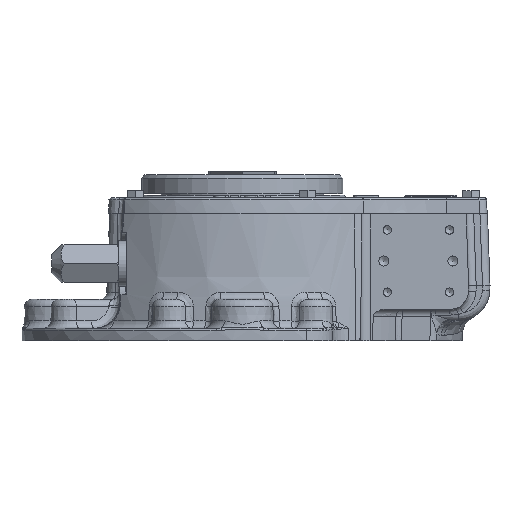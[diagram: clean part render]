
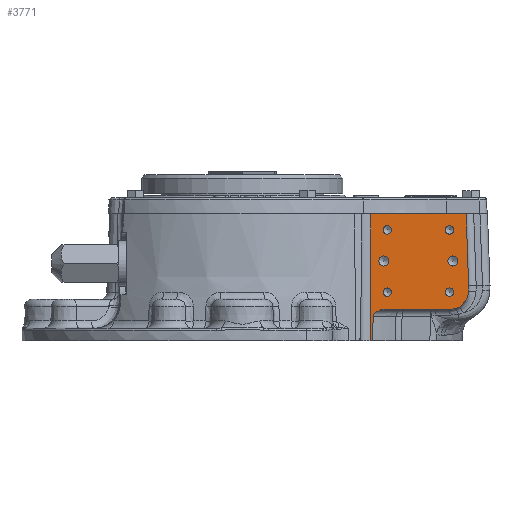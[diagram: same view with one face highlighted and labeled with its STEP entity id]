
A CAD part, front view. The second image highlights one B-rep face of the part: STEP entity #3771.
In plain terms, the highlighted planar face has unit normal (0, -1, 0).
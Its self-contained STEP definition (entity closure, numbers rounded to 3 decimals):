
#3771 = ADVANCED_FACE( '', ( #8143, #8144, #8145, #8146, #8147, #8148, #8149 ), #8150, .F. );
#8143 = FACE_BOUND( '', #31292, .T. );
#8144 = FACE_BOUND( '', #31293, .T. );
#8145 = FACE_BOUND( '', #31294, .T. );
#8146 = FACE_BOUND( '', #31295, .T. );
#8147 = FACE_BOUND( '', #31296, .T. );
#8148 = FACE_BOUND( '', #31297, .T. );
#8149 = FACE_OUTER_BOUND( '', #31298, .T. );
#8150 = PLANE( '', #31299 );
#31292 = EDGE_LOOP( '', ( #47688 ) );
#31293 = EDGE_LOOP( '', ( #47689 ) );
#31294 = EDGE_LOOP( '', ( #47690 ) );
#31295 = EDGE_LOOP( '', ( #47691 ) );
#31296 = EDGE_LOOP( '', ( #47692 ) );
#31297 = EDGE_LOOP( '', ( #47693 ) );
#31298 = EDGE_LOOP( '', ( #47694, #47695, #47696, #47697, #47698, #47699, #47700, #47701, #47702 ) );
#31299 = AXIS2_PLACEMENT_3D( '', #47703, #47704, #47705 );
#47688 = ORIENTED_EDGE( '', *, *, #52268, .T. );
#47689 = ORIENTED_EDGE( '', *, *, #50677, .T. );
#47690 = ORIENTED_EDGE( '', *, *, #53648, .T. );
#47691 = ORIENTED_EDGE( '', *, *, #52016, .T. );
#47692 = ORIENTED_EDGE( '', *, *, #54833, .T. );
#47693 = ORIENTED_EDGE( '', *, *, #54834, .T. );
#47694 = ORIENTED_EDGE( '', *, *, #51272, .T. );
#47695 = ORIENTED_EDGE( '', *, *, #54812, .T. );
#47696 = ORIENTED_EDGE( '', *, *, #51734, .F. );
#47697 = ORIENTED_EDGE( '', *, *, #51850, .T. );
#47698 = ORIENTED_EDGE( '', *, *, #51067, .F. );
#47699 = ORIENTED_EDGE( '', *, *, #51196, .F. );
#47700 = ORIENTED_EDGE( '', *, *, #54680, .F. );
#47701 = ORIENTED_EDGE( '', *, *, #53073, .T. );
#47702 = ORIENTED_EDGE( '', *, *, #54216, .F. );
#47703 = CARTESIAN_POINT( '', ( 178.01, -109.375, -418.811 ) );
#47704 = DIRECTION( '', ( 0., 1., 0. ) );
#47705 = DIRECTION( '', ( -1., 0., 0. ) );
#50677 = EDGE_CURVE( '', #55550, #55550, #55551, .T. );
#51067 = EDGE_CURVE( '', #56237, #56240, #56241, .F. );
#51196 = EDGE_CURVE( '', #56465, #56237, #56467, .T. );
#51272 = EDGE_CURVE( '', #56594, #56592, #56595, .T. );
#51734 = EDGE_CURVE( '', #57364, #57367, #57368, .T. );
#51850 = EDGE_CURVE( '', #57364, #56240, #57555, .T. );
#52016 = EDGE_CURVE( '', #57829, #57829, #57830, .T. );
#52268 = EDGE_CURVE( '', #58215, #58215, #58216, .T. );
#53073 = EDGE_CURVE( '', #59425, #59423, #59426, .T. );
#53648 = EDGE_CURVE( '', #60216, #60216, #60217, .T. );
#54216 = EDGE_CURVE( '', #56594, #59423, #60933, .T. );
#54680 = EDGE_CURVE( '', #59425, #56465, #61482, .T. );
#54812 = EDGE_CURVE( '', #56592, #57367, #61634, .T. );
#54833 = EDGE_CURVE( '', #61655, #61655, #61656, .T. );
#54834 = EDGE_CURVE( '', #61657, #61657, #61658, .T. );
#55550 = VERTEX_POINT( '', #62767 );
#55551 = CIRCLE( '', #62768, 4. );
#56237 = VERTEX_POINT( '', #65307 );
#56240 = VERTEX_POINT( '', #65311 );
#56241 = CIRCLE( '', #65312, 15. );
#56465 = VERTEX_POINT( '', #66481 );
#56467 = LINE( '', #66484, #66485 );
#56592 = VERTEX_POINT( '', #66789 );
#56594 = VERTEX_POINT( '', #66791 );
#56595 = LINE( '', #66792, #66793 );
#57364 = VERTEX_POINT( '', #69405 );
#57367 = VERTEX_POINT( '', #69408 );
#57368 = B_SPLINE_CURVE_WITH_KNOTS( '', 3, ( #69409, #69410, #69411, #69412, #69413, #69414, #69415, #69416, #69417, #69418, #69419, #69420, #69421, #69422, #69423, #69424, #69425, #69426, #69427, #69428, #69429, #69430 ), .UNSPECIFIED., .F., .F., ( 4, 2, 2, 2, 2, 2, 2, 2, 2, 2, 4 ), ( 0.035, 0.037, 0.038, 0.04, 0.04, 0.041, 0.042, 0.044, 0.045, 0.045, 0.047 ), .UNSPECIFIED. );
#57555 = LINE( '', #70144, #70145 );
#57829 = VERTEX_POINT( '', #71170 );
#57830 = CIRCLE( '', #71171, 3.324 );
#58215 = VERTEX_POINT( '', #72590 );
#58216 = CIRCLE( '', #72591, 4. );
#59423 = VERTEX_POINT( '', #77732 );
#59425 = VERTEX_POINT( '', #77734 );
#59426 = LINE( '', #77735, #77736 );
#60216 = VERTEX_POINT( '', #80598 );
#60217 = CIRCLE( '', #80599, 3.324 );
#60933 = LINE( '', #83037, #83038 );
#61482 = LINE( '', #85216, #85217 );
#61634 = B_SPLINE_CURVE_WITH_KNOTS( '', 3, ( #85728, #85729, #85730, #85731 ), .UNSPECIFIED., .F., .F., ( 4, 4 ), ( 0.048, 0.067 ), .UNSPECIFIED. );
#61655 = VERTEX_POINT( '', #85803 );
#61656 = CIRCLE( '', #85804, 3.324 );
#61657 = VERTEX_POINT( '', #85805 );
#61658 = CIRCLE( '', #85806, 3.324 );
#62767 = CARTESIAN_POINT( '', ( 116.5, -109.375, 67.5 ) );
#62768 = AXIS2_PLACEMENT_3D( '', #87140, #87141, #87142 );
#65307 = CARTESIAN_POINT( '', ( 179.842, -109.375, 43.477 ) );
#65311 = CARTESIAN_POINT( '', ( 164.851, -109.375, 29. ) );
#65312 = AXIS2_PLACEMENT_3D( '', #87554, #87555, #87556 );
#66481 = CARTESIAN_POINT( '', ( 180., -109.375, 48. ) );
#66484 = CARTESIAN_POINT( '', ( 180., -109.375, 48. ) );
#66485 = VECTOR( '', #87682, 1000. );
#66789 = CARTESIAN_POINT( '', ( 103.219, -109.375, 4. ) );
#66791 = CARTESIAN_POINT( '', ( 102., -109.375, 4. ) );
#66792 = CARTESIAN_POINT( '', ( -65., -109.375, 4. ) );
#66793 = VECTOR( '', #87775, 1000. );
#69405 = CARTESIAN_POINT( '', ( 112.712, -109.375, 29. ) );
#69408 = CARTESIAN_POINT( '', ( 104.194, -109.375, 23.209 ) );
#69409 = CARTESIAN_POINT( '', ( 112.712, -109.375, 29. ) );
#69410 = CARTESIAN_POINT( '', ( 112.244, -109.375, 29. ) );
#69411 = CARTESIAN_POINT( '', ( 111.777, -109.375, 28.972 ) );
#69412 = CARTESIAN_POINT( '', ( 110.841, -109.375, 28.859 ) );
#69413 = CARTESIAN_POINT( '', ( 110.379, -109.375, 28.774 ) );
#69414 = CARTESIAN_POINT( '', ( 109.475, -109.375, 28.549 ) );
#69415 = CARTESIAN_POINT( '', ( 109.032, -109.375, 28.409 ) );
#69416 = CARTESIAN_POINT( '', ( 108.382, -109.375, 28.153 ) );
#69417 = CARTESIAN_POINT( '', ( 108.168, -109.375, 28.061 ) );
#69418 = CARTESIAN_POINT( '', ( 107.745, -109.375, 27.858 ) );
#69419 = CARTESIAN_POINT( '', ( 107.535, -109.375, 27.748 ) );
#69420 = CARTESIAN_POINT( '', ( 106.921, -109.375, 27.394 ) );
#69421 = CARTESIAN_POINT( '', ( 106.535, -109.375, 27.128 ) );
#69422 = CARTESIAN_POINT( '', ( 105.817, -109.375, 26.523 ) );
#69423 = CARTESIAN_POINT( '', ( 105.482, -109.375, 26.181 ) );
#69424 = CARTESIAN_POINT( '', ( 105.055, -109.375, 25.621 ) );
#69425 = CARTESIAN_POINT( '', ( 104.924, -109.375, 25.427 ) );
#69426 = CARTESIAN_POINT( '', ( 104.689, -109.375, 25.019 ) );
#69427 = CARTESIAN_POINT( '', ( 104.584, -109.375, 24.804 ) );
#69428 = CARTESIAN_POINT( '', ( 104.322, -109.375, 24.141 ) );
#69429 = CARTESIAN_POINT( '', ( 104.218, -109.375, 23.682 ) );
#69430 = CARTESIAN_POINT( '', ( 104.194, -109.375, 23.209 ) );
#70144 = CARTESIAN_POINT( '', ( 137.747, -109.375, 29. ) );
#70145 = VECTOR( '', #88472, 1000. );
#71170 = CARTESIAN_POINT( '', ( 161.425, -109.375, 42.751 ) );
#71171 = AXIS2_PLACEMENT_3D( '', #88698, #88699, #88700 );
#72590 = CARTESIAN_POINT( '', ( 171.5, -109.375, 67.5 ) );
#72591 = AXIS2_PLACEMENT_3D( '', #89002, #89003, #89004 );
#77732 = CARTESIAN_POINT( '', ( 102., -109.375, 105. ) );
#77734 = CARTESIAN_POINT( '', ( 178.01, -109.375, 105. ) );
#77735 = CARTESIAN_POINT( '', ( 178.01, -109.375, 105. ) );
#77736 = VECTOR( '', #89869, 1000. );
#80598 = CARTESIAN_POINT( '', ( 115.251, -109.375, 46.075 ) );
#80599 = AXIS2_PLACEMENT_3D( '', #90482, #90483, #90484 );
#83037 = CARTESIAN_POINT( '', ( 102., -109.375, -418.811 ) );
#83038 = VECTOR( '', #91047, 1000. );
#85216 = CARTESIAN_POINT( '', ( 180., -109.375, 48. ) );
#85217 = VECTOR( '', #91499, 1000. );
#85728 = CARTESIAN_POINT( '', ( 103.219, -109.375, 4. ) );
#85729 = CARTESIAN_POINT( '', ( 103.545, -109.375, 10.403 ) );
#85730 = CARTESIAN_POINT( '', ( 103.87, -109.375, 16.806 ) );
#85731 = CARTESIAN_POINT( '', ( 104.194, -109.375, 23.209 ) );
#85803 = CARTESIAN_POINT( '', ( 164.749, -109.375, 88.925 ) );
#85804 = AXIS2_PLACEMENT_3D( '', #91631, #91632, #91633 );
#85805 = CARTESIAN_POINT( '', ( 118.575, -109.375, 92.249 ) );
#85806 = AXIS2_PLACEMENT_3D( '', #91634, #91635, #91636 );
#87140 = CARTESIAN_POINT( '', ( 112.5, -109.375, 67.5 ) );
#87141 = DIRECTION( '', ( 0., 1., 0. ) );
#87142 = DIRECTION( '', ( 1., 0., 0. ) );
#87554 = CARTESIAN_POINT( '', ( 164.851, -109.375, 44. ) );
#87555 = DIRECTION( '', ( 0., -1., 0. ) );
#87556 = DIRECTION( '', ( 1., 0., 0. ) );
#87682 = DIRECTION( '', ( -0.035, 0., -0.999 ) );
#87775 = DIRECTION( '', ( 1., 0., 0. ) );
#88472 = DIRECTION( '', ( 1., 0., 0. ) );
#88698 = CARTESIAN_POINT( '', ( 164.749, -109.375, 42.751 ) );
#88699 = DIRECTION( '', ( 0., 1., 0. ) );
#88700 = DIRECTION( '', ( -1., 0., 0. ) );
#89002 = CARTESIAN_POINT( '', ( 167.5, -109.375, 67.5 ) );
#89003 = DIRECTION( '', ( 0., 1., 0. ) );
#89004 = DIRECTION( '', ( 1., 0., 0. ) );
#89869 = DIRECTION( '', ( -1., 0., 0. ) );
#90482 = CARTESIAN_POINT( '', ( 115.251, -109.375, 42.751 ) );
#90483 = DIRECTION( '', ( 0., 1., 0. ) );
#90484 = DIRECTION( '', ( 0., 0., 1. ) );
#91047 = DIRECTION( '', ( 0., 0., 1. ) );
#91499 = DIRECTION( '', ( 0.035, 0., -0.999 ) );
#91631 = CARTESIAN_POINT( '', ( 164.749, -109.375, 92.249 ) );
#91632 = DIRECTION( '', ( 0., 1., 0. ) );
#91633 = DIRECTION( '', ( 0., 0., -1. ) );
#91634 = CARTESIAN_POINT( '', ( 115.251, -109.375, 92.249 ) );
#91635 = DIRECTION( '', ( 0., 1., 0. ) );
#91636 = DIRECTION( '', ( 1., 0., 0. ) );
